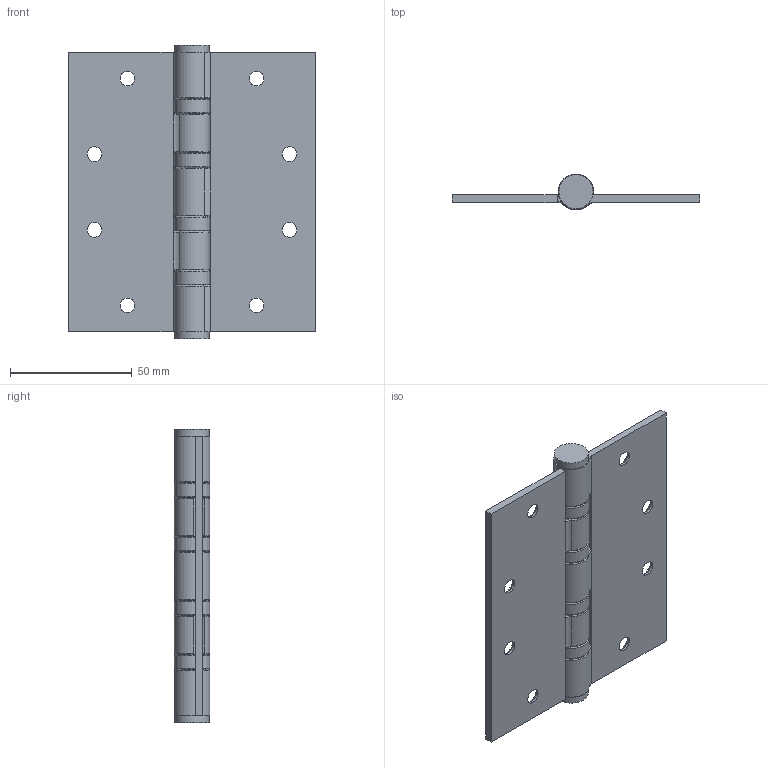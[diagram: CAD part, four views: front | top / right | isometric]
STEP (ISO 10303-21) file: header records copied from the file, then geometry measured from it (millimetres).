
FILE_DESCRIPTION(/* description */ (''),/* implementation_level */ '2;1');
FILE_NAME(/* name */ '\\NAS\db20\HG114102-30KS\DR_HG114102-30KS.stp',/* time_stamp */ '2017-08-17T09:04:25+09:00',/* author */ ('user'),/* organization */ (''),/* preprocessor_version */ 'ST-DEVELOPER v15.6',/* originating_system */ 'Autodesk Inventor 2015',/* authorisation */ '');
FILE_SCHEMA (('AUTOMOTIVE_DESIGN { 1 0 10303 214 3 1 1 }'));
Length unit declared in the file: millimetre
Products named in the file (1): DR_HG114102-30KS
Bounding box: 101.5 x 14.5 x 120.5 mm (x, y, z)
Volume: 48376.5 mm3; surface area: 34070.6 mm2
Topology: 3 solids, 3 shells, 119 faces, 287 edges, 184 vertices
Faces by surface type: cylinder 47, plane 40, torus 24, cone 8
Full cylindrical faces by diameter (mm): 6 x8, 8.5 x5, 14 x2, 14.5 x4
Entity records: 3296 total; most frequent: DIRECTION 624, CARTESIAN_POINT 536, ORIENTED_EDGE 484, AXIS2_PLACEMENT_3D 262, EDGE_CURVE 242, EDGE_LOOP 180, VERTEX_POINT 174, CIRCLE 142
